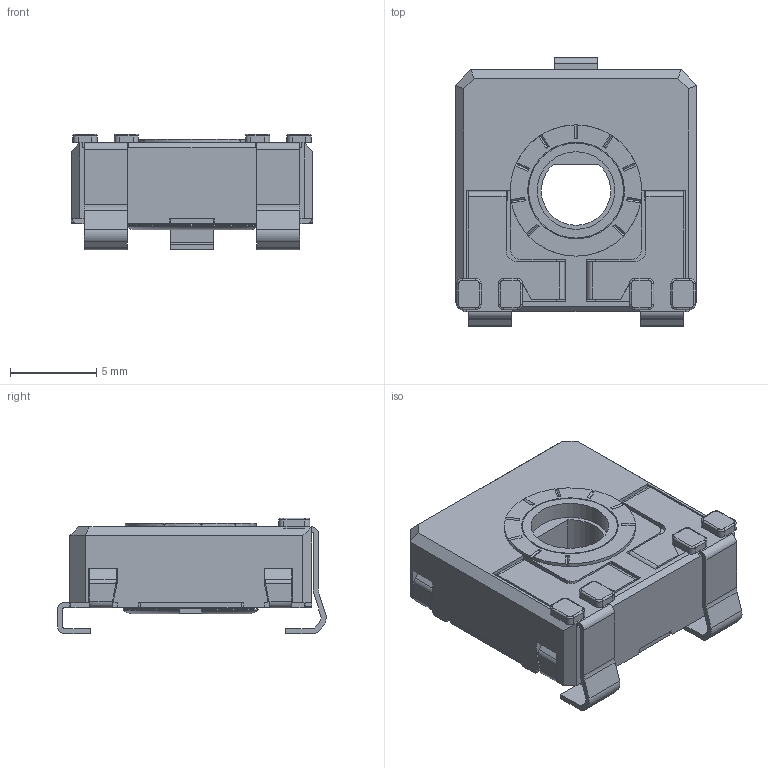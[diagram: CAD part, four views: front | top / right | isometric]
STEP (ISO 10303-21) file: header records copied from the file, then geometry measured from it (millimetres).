
FILE_DESCRIPTION(/* description */ (''),/* implementation_level */ '2;1');
FILE_NAME(/* name */ 'C:\Users\CEM\Desktop\ENVIAR\TRANSICION 3D CATALOGOS\RS14FVSMD RT-RO.stp',/* time_stamp */ '2025-12-10T12:18:26+01:00',/* author */ ('CEM'),/* organization */ (''),/* preprocessor_version */ 'ST-DEVELOPER v16.13',/* originating_system */ 'Autodesk Inventor 2018',/* authorisation */ '');
FILE_SCHEMA (('AUTOMOTIVE_DESIGN { 1 0 10303 214 3 1 1 }'));
Length unit declared in the file: millimetre
Products named in the file (1): CARCASA CA14 PGA
Bounding box: 14 x 15.55 x 6.7 mm (x, y, z)
Volume: 528.3 mm3; surface area: 1456.4 mm2
Topology: 1 solids, 1 shells, 547 faces, 1542 edges, 983 vertices
Faces by surface type: plane 405, cylinder 105, torus 23, bspline 8, cone 6
Full cylindrical faces by diameter (mm): 4.5 x1, 5.1 x1, 5.5 x1, 5.6 x1, 5.752 x1, 6.8 x1, 7.6 x1
Entity records: 17738 total; most frequent: CARTESIAN_POINT 3262, ORIENTED_EDGE 3050, DIRECTION 2870, EDGE_CURVE 1525, LINE 1204, VECTOR 1204, VERTEX_POINT 977, AXIS2_PLACEMENT_3D 833
